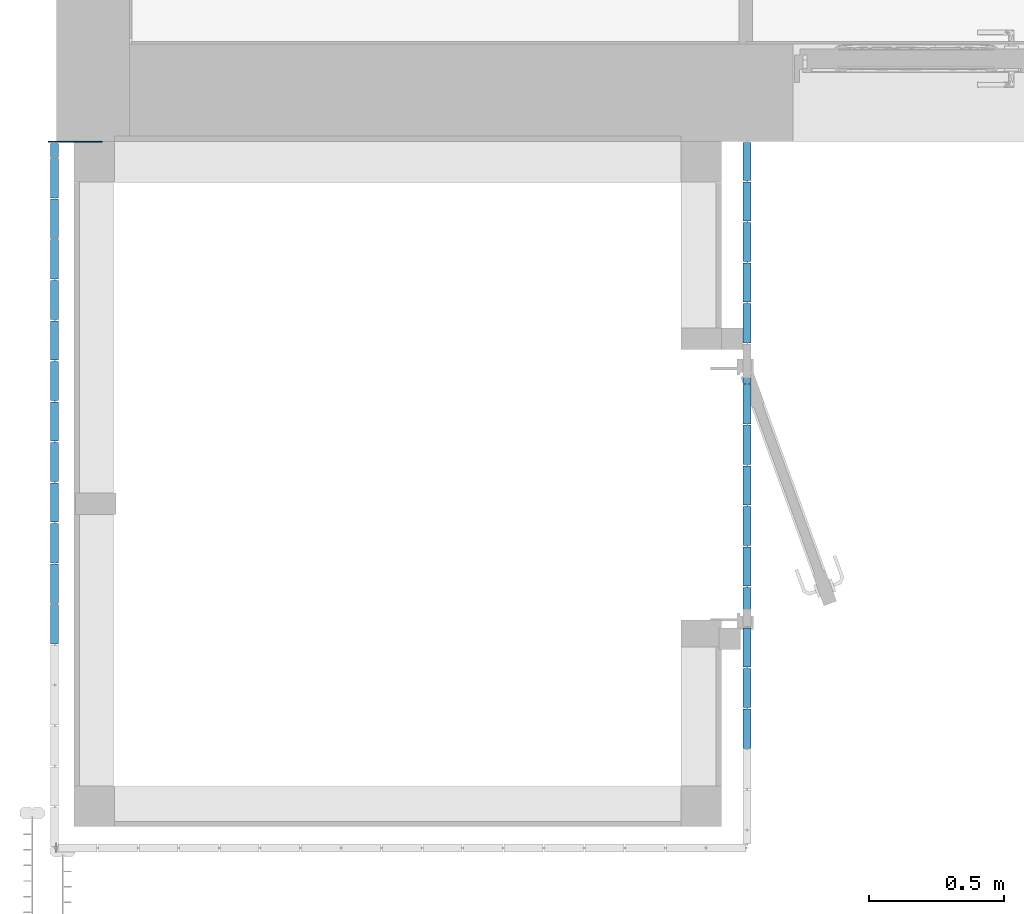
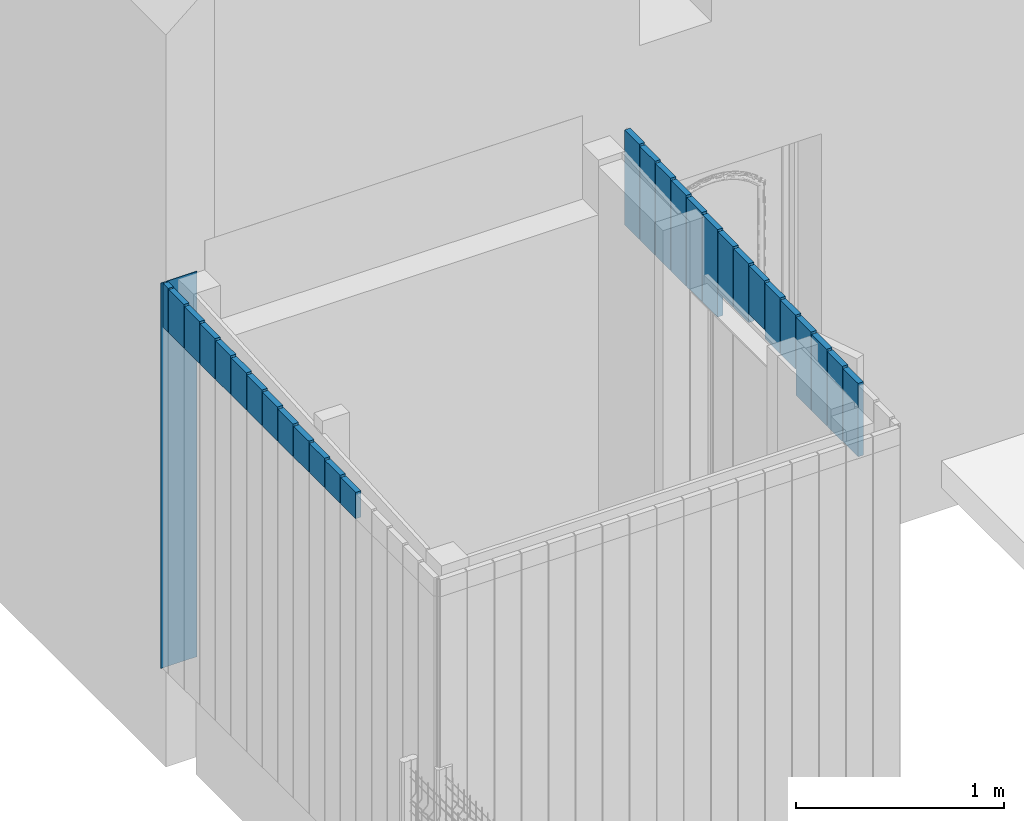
# One storey, part 72 of 81: 29 walls, 1 opening, 2 elements without a shape of their own.
"""IFC2X3 building model written with IfcOpenShell, lengths in metres."""

import ifcopenshell
import ifcopenshell.guid

model = None  # the IFC model being written
_history = None  # IfcOwnerHistory: only IFC2X3 demands one
_inside = {}  # id of a spatial element -> (the spatial element, [elements in it])
_under = {}  # id of a project, library or spatial element -> (it, [spatial elements below it])
_declared = {}  # id of a project -> (the project, [libraries it declares])
_typed = {}  # id of a type object -> (the type object, [elements of that type])
_made_of = {}  # id of a material, layer set ... -> (it, [elements and type objects made of it])


def new_model(schema):
    """Start an empty IFC model of exactly this schema.

    Asked for "IFC4X3", IfcOpenShell would pick the latest addendum, in which some entities
    have other attributes; the version numbers below select the first issue.
    IFC2X3 requires an IfcOwnerHistory on every rooted entity: one is made here for all.
    """
    global model, _history
    if schema == "IFC4X3":
        model = ifcopenshell.file(schema_version=(4, 3, 0, 0))
    else:
        model = ifcopenshell.file(schema=schema)
    _inside.clear()
    _under.clear()
    _declared.clear()
    _typed.clear()
    _made_of.clear()
    _history = None
    if model.schema == "IFC2X3":
        org = make("IfcOrganization", Name="unknown")
        user = make(
            "IfcPersonAndOrganization",
            ThePerson=make("IfcPerson", FamilyName="unknown"),
            TheOrganization=org,
        )
        app = make(
            "IfcApplication",
            ApplicationDeveloper=org,
            Version="unknown",
            ApplicationFullName="unknown",
            ApplicationIdentifier="unknown",
        )
        _history = make(
            "IfcOwnerHistory",
            OwningUser=user,
            OwningApplication=app,
            ChangeAction="ADDED",
            CreationDate=0,
        )
    return model


def make(cls, **values):
    """One entity of the class cls with the attributes given. An attribute that is None is left unset."""
    return model.create_entity(
        cls, **{name: value for name, value in values.items() if value is not None}
    )


def entity(cls, *values):
    """Any entity or typed value of the class cls, its attributes in the order of the schema. None: left unset."""
    e = model.create_entity(cls)
    for i, value in enumerate(values):
        if value is not None:
            e[i] = value
    return e


def rooted(cls, **values):
    """An entity with a GlobalId (a new one), such as an element, a storey or a relation."""
    return make(cls, GlobalId=ifcopenshell.guid.new(), OwnerHistory=_history, **values)


def si_unit(unit_type, name, prefix=None):
    """IfcSIUnit, for example si_unit("LENGTHUNIT", "METRE", prefix="MILLI")."""
    return make("IfcSIUnit", UnitType=unit_type, Prefix=prefix, Name=name)


def converted_unit(unit_type, name, factor, base, dimensions=None, offset=None):
    """IfcConversionBasedUnit, such as the inch: factor (a typed value) times the base unit."""
    return make(
        "IfcConversionBasedUnit"
        if offset is None
        else "IfcConversionBasedUnitWithOffset",
        ConversionOffset=offset,
        Dimensions=None
        if dimensions is None
        else entity("IfcDimensionalExponents", *dimensions),
        UnitType=unit_type,
        Name=name,
        ConversionFactor=make(
            "IfcMeasureWithUnit", ValueComponent=factor, UnitComponent=base
        ),
    )


def derived_unit(unit_type, elements):
    """IfcDerivedUnit: a product of units, each with its exponent."""
    return make(
        "IfcDerivedUnit",
        Elements=[
            make("IfcDerivedUnitElement", Unit=unit, Exponent=power)
            for unit, power in elements
        ],
        UnitType=unit_type,
    )


def assignment(units):
    """IfcUnitAssignment: the units of a project."""
    return None if units is None else make("IfcUnitAssignment", Units=units)


def point(xyz):
    """IfcCartesianPoint."""
    return None if xyz is None else make("IfcCartesianPoint", Coordinates=xyz)


def direction(xyz):
    """IfcDirection."""
    return None if xyz is None else make("IfcDirection", DirectionRatios=xyz)


def frame(location, z_axis=None, x_axis=None):
    """IfcAxis2Placement3D, a coordinate frame: its origin and axes. An axis left out is left unset."""
    return make(
        "IfcAxis2Placement3D",
        Location=point(location),
        Axis=direction(z_axis),
        RefDirection=direction(x_axis),
    )


def frame_2d(location, x_axis=None):
    """IfcAxis2Placement2D, a coordinate frame in the plane: its origin and x axis."""
    return make(
        "IfcAxis2Placement2D", Location=point(location), RefDirection=direction(x_axis)
    )


def origin():
    """The frame at (0, 0, 0) with its axes left unset."""
    return frame((0.0, 0.0, 0.0))


def place(relative_to, where):
    """IfcLocalPlacement: puts the frame where relative to a parent placement (None: the world)."""
    return make(
        "IfcLocalPlacement", PlacementRelTo=relative_to, RelativePlacement=where
    )


def context(
    kind, dimensions, precision=None, world=None, true_north=None, identifier=None
):
    """IfcGeometricRepresentationContext, for example the 3D "Model" context."""
    return make(
        "IfcGeometricRepresentationContext",
        ContextIdentifier=identifier,
        ContextType=kind,
        CoordinateSpaceDimension=dimensions,
        Precision=precision,
        WorldCoordinateSystem=world,
        TrueNorth=true_north,
    )


def subcontext(parent, identifier, kind, view, scale=None):
    """IfcGeometricRepresentationSubContext, for example "Body" below "Model"."""
    return make(
        "IfcGeometricRepresentationSubContext",
        ContextIdentifier=identifier,
        ContextType=kind,
        ParentContext=parent,
        TargetScale=scale,
        TargetView=view,
    )


def project(units=None, contexts=None):
    """IfcProject with its units and contexts."""
    return rooted(
        "IfcProject",
        Name="project",
        RepresentationContexts=contexts,
        UnitsInContext=assignment(units),
    )


def spatial(cls, under=None, at=None, **own):
    """A site, building, storey or space (cls), placed at a placement, below another one or the project."""
    s = rooted(cls, ObjectPlacement=at, **own)
    if under is not None:
        _under.setdefault(under.id(), (under, []))[1].append(s)
    return s


def profile(cls, at=None, kind="AREA", **sizes):
    """A parametric profile (cls). Its sizes go by their IFC names, for example OverallWidth=200.0."""
    return make(cls, ProfileType=kind, Position=at, **sizes)


def rectangle(**sizes):
    """IfcRectangleProfileDef."""
    return profile("IfcRectangleProfileDef", **sizes)


def extrude(swept, where, along, depth):
    """IfcExtrudedAreaSolid: the profile swept, set in the frame where, extruded along a direction by depth."""
    return make(
        "IfcExtrudedAreaSolid",
        SweptArea=swept,
        Position=where,
        ExtrudedDirection=direction(along),
        Depth=depth,
    )


def faces_of(points, faces, orient=None, outer=None):
    """IfcFace entities. A face is a list of loops; a loop is a list of indices into points, from 0.

    orient and outer hold one flag for each loop. By default every Orientation is true, the
    first loop of a face is its IfcFaceOuterBound and the others are IfcFaceBound.
    """
    made = []
    for i, loops in enumerate(faces):
        bounds = []
        for j, loop in enumerate(loops):
            is_outer = j == 0 if outer is None else outer[i][j]
            bounds.append(
                make(
                    "IfcFaceOuterBound" if is_outer else "IfcFaceBound",
                    Bound=make("IfcPolyLoop", Polygon=[points[k] for k in loop]),
                    Orientation=True if orient is None else orient[i][j],
                )
            )
        made.append(make("IfcFace", Bounds=bounds))
    return made


def faceted_brep(points, faces, orient=None, outer=None, voids=None):
    """IfcFacetedBrep: a solid bounded by flat faces; with voids (closed shells), ...WithVoids."""
    shared = [point(p) for p in points]
    hull = make("IfcClosedShell", CfsFaces=faces_of(shared, faces, orient, outer))
    if voids is None:
        return make("IfcFacetedBrep", Outer=hull)
    return make(
        "IfcFacetedBrepWithVoids",
        Outer=hull,
        Voids=[
            make(cls, CfsFaces=faces_of(shared, fs, o, b)) for cls, fs, o, b in voids
        ],
    )


def shape(context_of_items, identifier, shape_type, items):
    """IfcShapeRepresentation: the items that make up one representation, for example the "Body"."""
    return make(
        "IfcShapeRepresentation",
        ContextOfItems=context_of_items,
        RepresentationIdentifier=identifier,
        RepresentationType=shape_type,
        Items=items,
    )


def material(Name=None, Category=None):
    """IfcMaterial."""
    return make("IfcMaterial", Name=Name, Category=Category)


def layer(
    of_material, thickness, ventilated=None, Name=None, Category=None, Priority=None
):
    """IfcMaterialLayer: one layer of a wall or slab, of a material (None: an air gap)."""
    return make(
        "IfcMaterialLayer",
        Material=of_material,
        LayerThickness=thickness,
        IsVentilated=ventilated,
        Name=Name,
        Category=Category,
        Priority=Priority,
    )


def layer_set(layers, Name=None):
    """IfcMaterialLayerSet."""
    return make("IfcMaterialLayerSet", MaterialLayers=layers, LayerSetName=Name)


def layer_usage(for_layer_set, set_direction, sense, offset, extent=None):
    """IfcMaterialLayerSetUsage: how a layer set lies in its element."""
    return make(
        "IfcMaterialLayerSetUsage",
        ForLayerSet=for_layer_set,
        LayerSetDirection=set_direction,
        DirectionSense=sense,
        OffsetFromReferenceLine=offset,
        ReferenceExtent=extent,
    )


def made_of(thing, what):
    """Note that an element or type object is made of a material, layer set ...; save() writes the relation."""
    if what is not None:
        _made_of.setdefault(what.id(), (what, []))[1].append(thing)
    return thing


def type_object(cls, material=None, **own):
    """A type object (cls), such as IfcWallType, which elements share."""
    return made_of(rooted(cls, **own), material)


def element(
    cls,
    number,
    at=None,
    inside=None,
    cuts=None,
    type_object=None,
    material=None,
    context=None,
    identifier="Body",
    shape_type=None,
    held_by="IfcProductDefinitionShape",
    body=None,
    shapes=None,
    **own,
):
    """One element of the class cls, such as IfcWall. Its Tag is "e" and its number.

    at: its placement. inside: the storey or other place that contains it. cuts: it is an
    opening in that element (IfcRelVoidsElement). A single representation is given by context,
    identifier, shape_type and body (its items); several are given by shapes. held_by: the class
    of the entity that holds the representations. save() writes the other relations.
    """
    e = rooted(cls, Tag="e%d" % number, ObjectPlacement=at, **own)
    if body is not None:
        shapes = [shape(context, identifier, shape_type, body)]
    if shapes is not None:
        e.Representation = make(held_by, Representations=shapes)
    if inside is not None:
        _inside.setdefault(inside.id(), (inside, []))[1].append(e)
    if cuts is not None:
        rooted(
            "IfcRelVoidsElement", RelatingBuildingElement=cuts, RelatedOpeningElement=e
        )
    if type_object is not None:
        _typed.setdefault(type_object.id(), (type_object, []))[1].append(e)
    return made_of(e, material)


def aggregate(whole, parts):
    """IfcRelAggregates: a whole, such as a stair, and the parts it consists of."""
    return rooted("IfcRelAggregates", RelatingObject=whole, RelatedObjects=parts)


def save(model, path):
    """Write the relations noted so far, then the file.

    IfcRelAggregates (storeys below a building ...), IfcRelContainedInSpatialStructure (elements
    in a storey), IfcRelDefinesByType, IfcRelAssociatesMaterial and IfcRelDeclares: one each for
    every whole, place, type object, material and project.
    """
    for whole, parts in _under.values():
        aggregate(whole, parts)
    for where, things in _inside.values():
        rooted(
            "IfcRelContainedInSpatialStructure",
            RelatedElements=things,
            RelatingStructure=where,
        )
    for kind, things in _typed.values():
        rooted("IfcRelDefinesByType", RelatedObjects=things, RelatingType=kind)
    for what, things in _made_of.values():
        rooted("IfcRelAssociatesMaterial", RelatedObjects=things, RelatingMaterial=what)
    for by, libraries in _declared.values():
        rooted("IfcRelDeclares", RelatingContext=by, RelatedDefinitions=libraries)
    model.write(path)


model = new_model("IFC2X3")

# Units and contexts
model_context = context("Model", 3, precision=1e-05, world=origin(), true_north=direction((6.12303176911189e-17, 1.0)))
body_context = subcontext(model_context, "Body", "Model", "MODEL_VIEW")
ifc_project = project(units=[si_unit("LENGTHUNIT", "METRE"), si_unit("AREAUNIT", "SQUARE_METRE"), si_unit("VOLUMEUNIT", "CUBIC_METRE"), converted_unit("PLANEANGLEUNIT", "DEGREE", entity("IfcRatioMeasure", 0.0174532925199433), si_unit("PLANEANGLEUNIT", "RADIAN"), dimensions=[0, 0, 0, 0, 0, 0, 0]), si_unit("MASSUNIT", "GRAM", prefix="KILO"), derived_unit("MASSDENSITYUNIT", [(si_unit("MASSUNIT", "GRAM", prefix="KILO"), 1), (si_unit("LENGTHUNIT", "METRE"), -3)]), derived_unit("MOMENTOFINERTIAUNIT", [(si_unit("LENGTHUNIT", "METRE"), 4)]), si_unit("TIMEUNIT", "SECOND"), si_unit("FREQUENCYUNIT", "HERTZ"), si_unit("THERMODYNAMICTEMPERATUREUNIT", "DEGREE_CELSIUS"), derived_unit("THERMALTRANSMITTANCEUNIT", [(si_unit("MASSUNIT", "GRAM", prefix="KILO"), 1), (si_unit("THERMODYNAMICTEMPERATUREUNIT", "KELVIN"), -1), (si_unit("TIMEUNIT", "SECOND"), -3)]), derived_unit("VOLUMETRICFLOWRATEUNIT", [(si_unit("LENGTHUNIT", "METRE"), 3), (si_unit("TIMEUNIT", "SECOND"), -1)]), si_unit("ELECTRICCURRENTUNIT", "AMPERE"), si_unit("ELECTRICVOLTAGEUNIT", "VOLT"), si_unit("POWERUNIT", "WATT"), si_unit("FORCEUNIT", "NEWTON", prefix="KILO"), si_unit("ILLUMINANCEUNIT", "LUX"), si_unit("LUMINOUSFLUXUNIT", "LUMEN"), si_unit("LUMINOUSINTENSITYUNIT", "CANDELA"), derived_unit("USERDEFINED", [(si_unit("MASSUNIT", "GRAM", prefix="KILO"), -1), (si_unit("LENGTHUNIT", "METRE"), -2), (si_unit("TIMEUNIT", "SECOND"), 3), (si_unit("LUMINOUSFLUXUNIT", "LUMEN"), 1)]), derived_unit("LINEARVELOCITYUNIT", [(si_unit("LENGTHUNIT", "METRE"), 1), (si_unit("TIMEUNIT", "SECOND"), -1)]), si_unit("PRESSUREUNIT", "PASCAL"), derived_unit("USERDEFINED", [(si_unit("LENGTHUNIT", "METRE"), -2), (si_unit("MASSUNIT", "GRAM", prefix="KILO"), 1), (si_unit("TIMEUNIT", "SECOND"), -2)]), derived_unit("LINEARFORCEUNIT", [(si_unit("MASSUNIT", "GRAM", prefix="KILO"), 1), (si_unit("LENGTHUNIT", "METRE"), 1), (si_unit("TIMEUNIT", "SECOND"), -2), (si_unit("LENGTHUNIT", "METRE"), -1)]), derived_unit("PLANARFORCEUNIT", [(si_unit("MASSUNIT", "GRAM", prefix="KILO"), 1), (si_unit("LENGTHUNIT", "METRE"), 1), (si_unit("TIMEUNIT", "SECOND"), -2), (si_unit("LENGTHUNIT", "METRE"), -2)])], contexts=[model_context])

# Site, building, storey
site_placement = place(None, origin())
site = spatial("IfcSite", under=ifc_project, at=site_placement, Name="Surface", CompositionType="ELEMENT")
building_placement = place(site_placement, origin())
building = spatial("IfcBuilding", under=site, at=building_placement, CompositionType="ELEMENT")
storey_placement = place(building_placement, origin())
storey = spatial("IfcBuildingStorey", under=building, at=storey_placement, Name="01 RDC", CompositionType="ELEMENT", Elevation=-1.94916083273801e-14)

# Curtain wall, walls, opening
curtain_wall_type = type_object("IfcCurtainWallType", Name="Mur-rideau:1m x 2m", PredefinedType="NOTDEFINED")
curtain_wall_1_placement = place(storey_placement, origin())
curtain_wall_1 = element("IfcCurtainWall", 1, at=curtain_wall_1_placement, inside=storey, type_object=curtain_wall_type, Name="Mur-rideau:1m x 2m", ObjectType="Mur-rideau:1m x 2m")
ifc_material_1 = material(Name="Résineux, bois de construction")
ifc_layer_1 = layer(ifc_material_1, 0.03)
ifc_layer_set_1 = layer_set([ifc_layer_1], Name="Mur-rideau:1m x 2m")
ifc_layer_usage_1 = layer_usage(ifc_layer_set_1, "AXIS2", "NEGATIVE", 0.015)
wall_type_1 = type_object("IfcWallType", Name="Mur de base:Panneau Triply 30 mm", PredefinedType="NOTDEFINED", material=ifc_layer_set_1)
wall_1_placement = place(storey_placement, frame((8.02156158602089, -3.70096095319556, 2.0), z_axis=(0.0, 0.0, 1.0), x_axis=(0.0, -1.0, 0.0)))
wall_1 = element("IfcWallStandardCase", 2, at=wall_1_placement, type_object=wall_type_1, material=ifc_layer_usage_1, Name="Mur de base:Panneau Triply 30 mm", ObjectType="Mur de base:Panneau Triply 30 mm", context=body_context, shape_type="SweptSolid", body=[
    extrude(rectangle(XDim=0.1400000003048, YDim=0.0299999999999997, at=frame_2d((0.0700000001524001, 1.13624387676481e-16), x_axis=(-1.0, 0.0))), origin(), (0.0, 0.0, 1.0), 0.558171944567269),
])
ifc_layer_usage_2 = layer_usage(ifc_layer_set_1, "AXIS2", "NEGATIVE", 0.015)
wall_2_placement = place(storey_placement, frame((8.02156158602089, -3.84595163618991, 2.0), z_axis=(0.0, 0.0, 1.0), x_axis=(0.0, -1.0, 0.0)))
wall_2 = element("IfcWallStandardCase", 3, at=wall_2_placement, type_object=wall_type_1, material=ifc_layer_usage_2, Name="Mur de base:Panneau Triply 30 mm", ObjectType="Mur de base:Panneau Triply 30 mm", context=body_context, shape_type="SweptSolid", body=[
    extrude(rectangle(XDim=0.145018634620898, YDim=0.0299999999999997, at=frame_2d((0.0725093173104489, 1.17961196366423e-16), x_axis=(-1.0, 0.0))), origin(), (0.0, 0.0, 1.0), 0.549456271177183),
])
ifc_layer_usage_3 = layer_usage(ifc_layer_set_1, "AXIS2", "NEGATIVE", 0.015)
wall_3_placement = place(storey_placement, frame((8.02156158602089, -3.99595163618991, 2.0), z_axis=(0.0, 0.0, 1.0), x_axis=(0.0, -1.0, 0.0)))
wall_3 = element("IfcWallStandardCase", 4, at=wall_3_placement, type_object=wall_type_1, material=ifc_layer_usage_3, Name="Mur de base:Panneau Triply 30 mm", ObjectType="Mur de base:Panneau Triply 30 mm", context=body_context, shape_type="SweptSolid", body=[
    extrude(rectangle(XDim=0.145018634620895, YDim=0.0299999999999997, at=frame_2d((0.0725093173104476, -4.24139889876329e-16), x_axis=(-1.0, 0.0))), origin(), (0.0, 0.0, 1.0), 0.540281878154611),
])
ifc_layer_usage_4 = layer_usage(ifc_layer_set_1, "AXIS2", "NEGATIVE", 0.015)
wall_4_placement = place(storey_placement, frame((8.02156158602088, -4.14595163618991, 2.0), z_axis=(0.0, 0.0, 1.0), x_axis=(0.0, -1.0, 0.0)))
wall_4 = element("IfcWallStandardCase", 5, at=wall_4_placement, type_object=wall_type_1, material=ifc_layer_usage_4, Name="Mur de base:Panneau Triply 30 mm", ObjectType="Mur de base:Panneau Triply 30 mm", context=body_context, shape_type="SweptSolid", body=[
    extrude(rectangle(XDim=0.145018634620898, YDim=0.0299999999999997, at=frame_2d((0.0725093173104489, 1.17961196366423e-16), x_axis=(-1.0, 0.0))), origin(), (0.0, 0.0, 1.0), 0.531107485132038),
])
ifc_layer_usage_5 = layer_usage(ifc_layer_set_1, "AXIS2", "NEGATIVE", 0.015)
wall_5_placement = place(storey_placement, frame((8.02156158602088, -4.29595163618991, 2.0), z_axis=(0.0, 0.0, 1.0), x_axis=(0.0, -1.0, 0.0)))
wall_5 = element("IfcWallStandardCase", 6, at=wall_5_placement, type_object=wall_type_1, material=ifc_layer_usage_5, Name="Mur de base:Panneau Triply 30 mm", ObjectType="Mur de base:Panneau Triply 30 mm", context=body_context, shape_type="SweptSolid", body=[
    extrude(rectangle(XDim=0.145018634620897, YDim=0.0299999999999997, at=frame_2d((0.0725093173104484, 1.17961196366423e-16), x_axis=(-1.0, 0.0))), origin(), (0.0, 0.0, 1.0), 0.521933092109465),
])
ifc_layer_usage_6 = layer_usage(ifc_layer_set_1, "AXIS2", "NEGATIVE", 0.015)
wall_6_placement = place(storey_placement, frame((8.02156158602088, -4.44595163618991, 2.0), z_axis=(0.0, 0.0, 1.0), x_axis=(0.0, -1.0, 0.0)))
wall_6 = element("IfcWallStandardCase", 7, at=wall_6_placement, type_object=wall_type_1, material=ifc_layer_usage_6, Name="Mur de base:Panneau Triply 30 mm", ObjectType="Mur de base:Panneau Triply 30 mm", context=body_context, shape_type="SweptSolid", body=[
    extrude(rectangle(XDim=0.145009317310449, YDim=0.0299999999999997, at=frame_2d((0.0725046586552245, 1.17961196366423e-16), x_axis=(-1.0, 0.0))), origin(), (0.0, 0.0, 1.0), 0.512758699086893),
])
ifc_layer_usage_7 = layer_usage(ifc_layer_set_1, "AXIS2", "NEGATIVE", 0.015)
wall_7_placement = place(storey_placement, frame((8.02156158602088, -4.59595163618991, 2.15), z_axis=(0.0, 0.0, 1.0), x_axis=(0.0, -1.0, 0.0)))
wall_7 = element("IfcWallStandardCase", 8, at=wall_7_placement, type_object=wall_type_1, material=ifc_layer_usage_7, Name="Mur de base:Panneau Triply 30 mm", ObjectType="Mur de base:Panneau Triply 30 mm", context=body_context, shape_type="SweptSolid", body=[
    extrude(rectangle(XDim=0.145018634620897, YDim=0.0299999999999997, at=frame_2d((0.0725093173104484, 1.17961196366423e-16), x_axis=(-1.0, 0.0))), origin(), (0.0, 0.0, 1.0), 0.353584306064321),
])
ifc_layer_usage_8 = layer_usage(ifc_layer_set_1, "AXIS2", "NEGATIVE", 0.015)
wall_8_placement = place(storey_placement, frame((8.02156158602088, -4.74595163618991, 2.15), z_axis=(0.0, 0.0, 1.0), x_axis=(0.0, -1.0, 0.0)))
wall_8 = element("IfcWallStandardCase", 9, at=wall_8_placement, type_object=wall_type_1, material=ifc_layer_usage_8, Name="Mur de base:Panneau Triply 30 mm", ObjectType="Mur de base:Panneau Triply 30 mm", context=body_context, shape_type="SweptSolid", body=[
    extrude(rectangle(XDim=0.145018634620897, YDim=0.0299999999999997, at=frame_2d((0.0725093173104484, -4.24139889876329e-16), x_axis=(-1.0, 0.0))), origin(), (0.0, 0.0, 1.0), 0.344409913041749),
])
ifc_layer_usage_9 = layer_usage(ifc_layer_set_1, "AXIS2", "NEGATIVE", 0.015)
wall_9_placement = place(storey_placement, frame((8.02156158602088, -4.89595163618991, 2.20000000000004), z_axis=(0.0, 0.0, 1.0), x_axis=(0.0, -1.0, 0.0)))
wall_9 = element("IfcWallStandardCase", 10, at=wall_9_placement, type_object=wall_type_1, material=ifc_layer_usage_9, Name="Mur de base:Panneau Triply 30 mm", ObjectType="Mur de base:Panneau Triply 30 mm", context=body_context, shape_type="SweptSolid", body=[
    extrude(rectangle(XDim=0.145018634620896, YDim=0.0299999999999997, at=frame_2d((0.0725093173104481, 1.17961196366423e-16), x_axis=(-1.0, 0.0))), origin(), (0.0, 0.0, 1.0), 0.285235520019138),
])
opening_placement = place(wall_9_placement, frame((0.605009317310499, -0.315000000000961, -2.20000000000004), z_axis=(0.0, 0.0, 1.0), x_axis=(0.0, 1.0, 0.0)))
element("IfcOpeningElement", 11, at=opening_placement, cuts=wall_9, Name="Mur de base:Panneau Triply 30 mm", ObjectType="Opening", context=body_context, shape_type="Brep", body=[
    faceted_brep([(0.630000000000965, 0.960000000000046, 2.15999999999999), (0.338000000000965, 0.960000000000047, 2.15999999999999), (0.338000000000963, 0.0400000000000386, 2.15999999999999), (0.630000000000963, 0.0400000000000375, 2.15999999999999), (0.0, 0.960000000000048, 0.0), (0.180000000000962, 0.960000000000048, 0.0), (0.180000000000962, 0.970000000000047, 0.0), (0.27800000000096, 0.970000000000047, 0.0), (0.27800000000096, 1.0, 0.0), (0.338000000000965, 1.0, 0.0), (0.338000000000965, 0.960000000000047, 0.0), (0.630000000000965, 0.960000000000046, 0.0), (0.630000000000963, 0.0400000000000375, 0.0), (0.338000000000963, 0.0400000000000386, 0.0), (0.338000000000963, 0.0, 0.0), (0.278000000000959, 0.0, 0.0), (0.278000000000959, 0.0300000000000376, 0.0), (0.180000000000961, 0.0300000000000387, 0.0), (0.180000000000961, 0.0400000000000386, 0.0), (0.0, 0.0400000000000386, 0.0), (0.0, 0.960000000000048, 2.15999999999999), (0.180000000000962, 0.960000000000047, 2.15999999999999), (0.0, 0.0400000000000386, 2.15999999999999), (0.278000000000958, 0.0, 2.20000000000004), (0.278000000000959, 1.0, 2.20000000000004), (0.278000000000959, 0.970000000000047, 2.17), (0.278000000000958, 0.0300000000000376, 2.17), (0.18000000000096, 0.0300000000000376, 2.17), (0.180000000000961, 0.970000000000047, 2.17), (0.18000000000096, 0.0400000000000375, 2.15999999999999), (0.338000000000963, 1.0, 2.20000000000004), (0.338000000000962, 0.0, 2.20000000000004)], [[[0, 1, 2, 3]], [[4, 5, 6, 7, 8, 9, 10, 11, 12, 13, 14, 15, 16, 17, 18, 19]], [[20, 21, 5, 4]], [[20, 4, 19, 22]], [[3, 2, 13, 12]], [[3, 12, 11, 0]], [[15, 23, 24, 8, 7, 25, 26, 16]], [[16, 26, 27, 17]], [[17, 27, 28, 6, 5, 21, 29, 18]], [[13, 2, 1, 10, 9, 30, 31, 14]], [[14, 31, 23, 15]], [[25, 28, 27, 26]], [[23, 31, 30, 24]], [[7, 6, 28, 25]], [[24, 30, 9, 8]], [[19, 18, 29, 22]], [[11, 10, 1, 0]], [[22, 29, 21, 20]]]),
])
ifc_layer_usage_10 = layer_usage(ifc_layer_set_1, "AXIS2", "NEGATIVE", 0.015)
wall_10_placement = place(storey_placement, frame((8.02156158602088, -5.04595163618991, 2.15), z_axis=(0.0, 0.0, 1.0), x_axis=(0.0, -1.0, 0.0)))
wall_10 = element("IfcWallStandardCase", 12, at=wall_10_placement, type_object=wall_type_1, material=ifc_layer_usage_10, Name="Mur de base:Panneau Triply 30 mm", ObjectType="Mur de base:Panneau Triply 30 mm", context=body_context, shape_type="SweptSolid", body=[
    extrude(rectangle(XDim=0.145018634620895, YDim=0.0299999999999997, at=frame_2d((0.0725093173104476, 1.17961196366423e-16), x_axis=(-1.0, 0.0))), origin(), (0.0, 0.0, 1.0), 0.326061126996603),
])
ifc_layer_usage_11 = layer_usage(ifc_layer_set_1, "AXIS2", "NEGATIVE", 0.015)
wall_11_placement = place(storey_placement, frame((8.02156158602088, -5.19595163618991, 2.15), z_axis=(0.0, 0.0, 1.0), x_axis=(0.0, -1.0, 0.0)))
wall_11 = element("IfcWallStandardCase", 13, at=wall_11_placement, type_object=wall_type_1, material=ifc_layer_usage_11, Name="Mur de base:Panneau Triply 30 mm", ObjectType="Mur de base:Panneau Triply 30 mm", context=body_context, shape_type="SweptSolid", body=[
    extrude(rectangle(XDim=0.145018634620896, YDim=0.0299999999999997, at=frame_2d((0.0725093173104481, 1.17961196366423e-16), x_axis=(-1.0, 0.0))), origin(), (0.0, 0.0, 1.0), 0.316886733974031),
])
ifc_layer_usage_12 = layer_usage(ifc_layer_set_1, "AXIS2", "NEGATIVE", 0.015)
wall_12_placement = place(storey_placement, frame((8.02156158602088, -5.34595163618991, 2.0), z_axis=(0.0, 0.0, 1.0), x_axis=(0.0, -1.0, 0.0)))
wall_12 = element("IfcWallStandardCase", 14, at=wall_12_placement, type_object=wall_type_1, material=ifc_layer_usage_12, Name="Mur de base:Panneau Triply 30 mm", ObjectType="Mur de base:Panneau Triply 30 mm", context=body_context, shape_type="SweptSolid", body=[
    extrude(rectangle(XDim=0.145009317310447, YDim=0.0299999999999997, at=frame_2d((0.0725046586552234, -4.24139889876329e-16), x_axis=(-1.0, 0.0))), origin(), (0.0, 0.0, 1.0), 0.457712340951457),
])
ifc_layer_usage_13 = layer_usage(ifc_layer_set_1, "AXIS2", "NEGATIVE", 0.015)
wall_13_placement = place(storey_placement, frame((8.02156158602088, -5.49595163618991, 2.0), z_axis=(0.0, 0.0, 1.0), x_axis=(0.0, -1.0, 0.0)))
wall_13 = element("IfcWallStandardCase", 15, at=wall_13_placement, type_object=wall_type_1, material=ifc_layer_usage_13, Name="Mur de base:Panneau Triply 30 mm", ObjectType="Mur de base:Panneau Triply 30 mm", context=body_context, shape_type="SweptSolid", body=[
    extrude(rectangle(XDim=0.145018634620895, YDim=0.0299999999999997, at=frame_2d((0.0725093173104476, 1.17961196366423e-16), x_axis=(-1.0, 0.0))), origin(), (0.0, 0.0, 1.0), 0.448537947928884),
])
ifc_layer_usage_14 = layer_usage(ifc_layer_set_1, "AXIS2", "NEGATIVE", 0.015)
wall_14_placement = place(storey_placement, frame((8.02156158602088, -5.64595163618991, 2.0), z_axis=(0.0, 0.0, 1.0), x_axis=(0.0, -1.0, 0.0)))
wall_14 = element("IfcWallStandardCase", 16, at=wall_14_placement, type_object=wall_type_1, material=ifc_layer_usage_14, Name="Mur de base:Panneau Triply 30 mm", ObjectType="Mur de base:Panneau Triply 30 mm", context=body_context, shape_type="SweptSolid", body=[
    extrude(rectangle(XDim=0.145018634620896, YDim=0.0299999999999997, at=frame_2d((0.0725093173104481, 1.17961196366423e-16), x_axis=(-1.0, 0.0))), origin(), (0.0, 0.0, 1.0), 0.439363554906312),
])
ifc_layer_usage_15 = layer_usage(ifc_layer_set_1, "AXIS2", "NEGATIVE", 0.015)
wall_15_placement = place(storey_placement, frame((8.02156158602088, -5.79595163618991, 2.0), z_axis=(0.0, 0.0, 1.0), x_axis=(0.0, -1.0, 0.0)))
wall_15 = element("IfcWallStandardCase", 17, at=wall_15_placement, type_object=wall_type_1, material=ifc_layer_usage_15, Name="Mur de base:Panneau Triply 30 mm", ObjectType="Mur de base:Panneau Triply 30 mm", context=body_context, shape_type="SweptSolid", body=[
    extrude(rectangle(XDim=0.145018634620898, YDim=0.0299999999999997, at=frame_2d((0.0725093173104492, 1.17961196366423e-16), x_axis=(-1.0, 0.0))), origin(), (0.0, 0.0, 1.0), 0.430189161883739),
])
aggregate(curtain_wall_1, [wall_1, wall_2, wall_3, wall_4, wall_5, wall_6, wall_7, wall_8, wall_9, wall_10, wall_11, wall_12, wall_13, wall_14, wall_15])

# Curtain wall, walls
curtain_wall_2_placement = place(storey_placement, origin())
curtain_wall_2 = element("IfcCurtainWall", 18, at=curtain_wall_2_placement, inside=storey, type_object=curtain_wall_type, Name="Mur-rideau:1m x 2m", ObjectType="Mur-rideau:1m x 2m")
ifc_layer_usage_16 = layer_usage(ifc_layer_set_1, "AXIS2", "POSITIVE", -0.015)
wall_16_placement = place(storey_placement, frame((5.45983615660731, -5.5547202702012, 2.3), z_axis=(0.0, 0.0, 1.0), x_axis=(0.0, 1.0, 0.0)))
wall_16 = element("IfcWallStandardCase", 19, at=wall_16_placement, type_object=wall_type_1, material=ifc_layer_usage_16, Name="Mur de base:Panneau Triply 30 mm", ObjectType="Mur de base:Panneau Triply 30 mm", context=body_context, shape_type="SweptSolid", body=[
    extrude(rectangle(XDim=0.145018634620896, YDim=0.0299999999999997, at=frame_2d((0.0725093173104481, 1.24032728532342e-16), x_axis=(-1.0, 0.0))), origin(), (0.0, 0.0, 1.0), 0.153813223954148),
])
ifc_layer_usage_17 = layer_usage(ifc_layer_set_1, "AXIS2", "POSITIVE", -0.015)
wall_17_placement = place(storey_placement, frame((5.45983615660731, -5.40472027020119, 2.3), z_axis=(0.0, 0.0, 1.0), x_axis=(0.0, 1.0, 0.0)))
wall_17 = element("IfcWallStandardCase", 20, at=wall_17_placement, type_object=wall_type_1, material=ifc_layer_usage_17, Name="Mur de base:Panneau Triply 30 mm", ObjectType="Mur de base:Panneau Triply 30 mm", context=body_context, shape_type="SweptSolid", body=[
    extrude(rectangle(XDim=0.145018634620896, YDim=0.0299999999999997, at=frame_2d((0.0725093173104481, -4.17200995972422e-16), x_axis=(-1.0, 0.0))), origin(), (0.0, 0.0, 1.0), 0.16298761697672),
])
ifc_layer_usage_18 = layer_usage(ifc_layer_set_1, "AXIS2", "POSITIVE", -0.015)
wall_18_placement = place(storey_placement, frame((5.45983615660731, -5.2547202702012, 2.3), z_axis=(0.0, 0.0, 1.0), x_axis=(0.0, 1.0, 0.0)))
wall_18 = element("IfcWallStandardCase", 21, at=wall_18_placement, type_object=wall_type_1, material=ifc_layer_usage_18, Name="Mur de base:Panneau Triply 30 mm", ObjectType="Mur de base:Panneau Triply 30 mm", context=body_context, shape_type="SweptSolid", body=[
    extrude(rectangle(XDim=0.145018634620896, YDim=0.0299999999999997, at=frame_2d((0.0725093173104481, 1.24032728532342e-16), x_axis=(-1.0, 0.0))), origin(), (0.0, 0.0, 1.0), 0.172162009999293),
])
ifc_layer_usage_19 = layer_usage(ifc_layer_set_1, "AXIS2", "POSITIVE", -0.015)
wall_19_placement = place(storey_placement, frame((5.45983615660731, -5.1047202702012, 2.3), z_axis=(0.0, 0.0, 1.0), x_axis=(0.0, 1.0, 0.0)))
wall_19 = element("IfcWallStandardCase", 22, at=wall_19_placement, type_object=wall_type_1, material=ifc_layer_usage_19, Name="Mur de base:Panneau Triply 30 mm", ObjectType="Mur de base:Panneau Triply 30 mm", context=body_context, shape_type="SweptSolid", body=[
    extrude(rectangle(XDim=0.145018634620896, YDim=0.0299999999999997, at=frame_2d((0.0725093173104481, 1.24032728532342e-16), x_axis=(-1.0, 0.0))), origin(), (0.0, 0.0, 1.0), 0.181336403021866),
])
ifc_layer_usage_20 = layer_usage(ifc_layer_set_1, "AXIS2", "POSITIVE", -0.015)
wall_20_placement = place(storey_placement, frame((5.45983615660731, -4.95472027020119, 2.3), z_axis=(0.0, 0.0, 1.0), x_axis=(0.0, 1.0, 0.0)))
wall_20 = element("IfcWallStandardCase", 23, at=wall_20_placement, type_object=wall_type_1, material=ifc_layer_usage_20, Name="Mur de base:Panneau Triply 30 mm", ObjectType="Mur de base:Panneau Triply 30 mm", context=body_context, shape_type="SweptSolid", body=[
    extrude(rectangle(XDim=0.145018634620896, YDim=0.0299999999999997, at=frame_2d((0.0725093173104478, 1.24032728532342e-16), x_axis=(-1.0, 0.0))), origin(), (0.0, 0.0, 1.0), 0.190510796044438),
])
ifc_layer_usage_21 = layer_usage(ifc_layer_set_1, "AXIS2", "POSITIVE", -0.015)
wall_21_placement = place(storey_placement, frame((5.45983615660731, -4.8047202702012, 2.3), z_axis=(0.0, 0.0, 1.0), x_axis=(0.0, 1.0, 0.0)))
wall_21 = element("IfcWallStandardCase", 24, at=wall_21_placement, type_object=wall_type_1, material=ifc_layer_usage_21, Name="Mur de base:Panneau Triply 30 mm", ObjectType="Mur de base:Panneau Triply 30 mm", context=body_context, shape_type="SweptSolid", body=[
    extrude(rectangle(XDim=0.145018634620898, YDim=0.0299999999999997, at=frame_2d((0.0725093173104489, -4.17200995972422e-16), x_axis=(-1.0, 0.0))), origin(), (0.0, 0.0, 1.0), 0.199685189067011),
])
ifc_layer_usage_22 = layer_usage(ifc_layer_set_1, "AXIS2", "POSITIVE", -0.015)
wall_22_placement = place(storey_placement, frame((5.45983615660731, -4.6547202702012, 2.3), z_axis=(0.0, 0.0, 1.0), x_axis=(0.0, 1.0, 0.0)))
wall_22 = element("IfcWallStandardCase", 25, at=wall_22_placement, type_object=wall_type_1, material=ifc_layer_usage_22, Name="Mur de base:Panneau Triply 30 mm", ObjectType="Mur de base:Panneau Triply 30 mm", context=body_context, shape_type="SweptSolid", body=[
    extrude(rectangle(XDim=0.145018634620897, YDim=0.0299999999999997, at=frame_2d((0.0725093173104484, 1.24032728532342e-16), x_axis=(-1.0, 0.0))), origin(), (0.0, 0.0, 1.0), 0.208859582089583),
])
ifc_layer_usage_23 = layer_usage(ifc_layer_set_1, "AXIS2", "POSITIVE", -0.015)
wall_23_placement = place(storey_placement, frame((5.45983615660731, -4.5047202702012, 2.3), z_axis=(0.0, 0.0, 1.0), x_axis=(0.0, 1.0, 0.0)))
wall_23 = element("IfcWallStandardCase", 26, at=wall_23_placement, type_object=wall_type_1, material=ifc_layer_usage_23, Name="Mur de base:Panneau Triply 30 mm", ObjectType="Mur de base:Panneau Triply 30 mm", context=body_context, shape_type="SweptSolid", body=[
    extrude(rectangle(XDim=0.145018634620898, YDim=0.0299999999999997, at=frame_2d((0.0725093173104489, 1.24032728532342e-16), x_axis=(-1.0, 0.0))), origin(), (0.0, 0.0, 1.0), 0.218033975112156),
])
ifc_layer_usage_24 = layer_usage(ifc_layer_set_1, "AXIS2", "POSITIVE", -0.015)
wall_24_placement = place(storey_placement, frame((5.45983615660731, -4.3547202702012, 2.3), z_axis=(0.0, 0.0, 1.0), x_axis=(0.0, 1.0, 0.0)))
wall_24 = element("IfcWallStandardCase", 27, at=wall_24_placement, type_object=wall_type_1, material=ifc_layer_usage_24, Name="Mur de base:Panneau Triply 30 mm", ObjectType="Mur de base:Panneau Triply 30 mm", context=body_context, shape_type="SweptSolid", body=[
    extrude(rectangle(XDim=0.145018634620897, YDim=0.0299999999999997, at=frame_2d((0.0725093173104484, 1.24032728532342e-16), x_axis=(-1.0, 0.0))), origin(), (0.0, 0.0, 1.0), 0.227208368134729),
])
ifc_layer_usage_25 = layer_usage(ifc_layer_set_1, "AXIS2", "POSITIVE", -0.015)
wall_25_placement = place(storey_placement, frame((5.45983615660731, -4.2047202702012, 2.3), z_axis=(0.0, 0.0, 1.0), x_axis=(0.0, 1.0, 0.0)))
wall_25 = element("IfcWallStandardCase", 28, at=wall_25_placement, type_object=wall_type_1, material=ifc_layer_usage_25, Name="Mur de base:Panneau Triply 30 mm", ObjectType="Mur de base:Panneau Triply 30 mm", context=body_context, shape_type="SweptSolid", body=[
    extrude(rectangle(XDim=0.145018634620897, YDim=0.0299999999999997, at=frame_2d((0.0725093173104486, 1.24032728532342e-16), x_axis=(-1.0, 0.0))), origin(), (0.0, 0.0, 1.0), 0.236382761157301),
])
ifc_layer_usage_26 = layer_usage(ifc_layer_set_1, "AXIS2", "POSITIVE", -0.015)
wall_26_placement = place(storey_placement, frame((5.45983615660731, -4.0547202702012, 2.3), z_axis=(0.0, 0.0, 1.0), x_axis=(0.0, 1.0, 0.0)))
wall_26 = element("IfcWallStandardCase", 29, at=wall_26_placement, type_object=wall_type_1, material=ifc_layer_usage_26, Name="Mur de base:Panneau Triply 30 mm", ObjectType="Mur de base:Panneau Triply 30 mm", context=body_context, shape_type="SweptSolid", body=[
    extrude(rectangle(XDim=0.145018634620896, YDim=0.0299999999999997, at=frame_2d((0.0725093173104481, -4.17200995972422e-16), x_axis=(-1.0, 0.0))), origin(), (0.0, 0.0, 1.0), 0.245557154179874),
])
ifc_layer_usage_27 = layer_usage(ifc_layer_set_1, "AXIS2", "POSITIVE", -0.015)
wall_27_placement = place(storey_placement, frame((5.45983615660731, -3.9047202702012, 2.3), z_axis=(0.0, 0.0, 1.0), x_axis=(0.0, 1.0, 0.0)))
wall_27 = element("IfcWallStandardCase", 30, at=wall_27_placement, type_object=wall_type_1, material=ifc_layer_usage_27, Name="Mur de base:Panneau Triply 30 mm", ObjectType="Mur de base:Panneau Triply 30 mm", context=body_context, shape_type="SweptSolid", body=[
    extrude(rectangle(XDim=0.145018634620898, YDim=0.0299999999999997, at=frame_2d((0.0725093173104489, 1.24032728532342e-16), x_axis=(-1.0, 0.0))), origin(), (0.0, 0.0, 1.0), 0.254731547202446),
])
ifc_layer_usage_28 = layer_usage(ifc_layer_set_1, "AXIS2", "POSITIVE", -0.015)
wall_28_placement = place(storey_placement, frame((5.45983615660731, -3.75471095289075, 2.3), z_axis=(0.0, 0.0, 1.0), x_axis=(0.0, 1.0, 0.0)))
wall_28 = element("IfcWallStandardCase", 31, at=wall_28_placement, type_object=wall_type_1, material=ifc_layer_usage_28, Name="Mur de base:Panneau Triply 30 mm", ObjectType="Mur de base:Panneau Triply 30 mm", context=body_context, shape_type="SweptSolid", body=[
    extrude(rectangle(XDim=0.0499999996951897, YDim=0.0299999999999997, at=frame_2d((0.0249999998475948, 4.25007251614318e-17), x_axis=(-1.0, 0.0))), origin(), (0.0, 0.0, 1.0), 0.257942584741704),
])
aggregate(curtain_wall_2, [wall_16, wall_17, wall_18, wall_19, wall_20, wall_21, wall_22, wall_23, wall_24, wall_25, wall_26, wall_27, wall_28])

# Wall
ifc_material_2 = material(Name="Brique, commune")
ifc_layer_2 = layer(ifc_material_2, 0.2)
ifc_layer_set_2 = layer_set([ifc_layer_2], Name="Mur de base:Ext. Brique 20")
wall_type_2 = type_object("IfcWallType", Name="Mur de base:Ext. Brique 20", PredefinedType="STANDARD", material=ifc_layer_set_2)
wall_29_placement = place(storey_placement, frame((5.53653983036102, -3.69971095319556, 0.3), z_axis=(0.0, 0.0, 1.0), x_axis=(0.0, 1.0, 0.0)))
element("IfcWall", 32, at=wall_29_placement, inside=storey, type_object=wall_type_2, material=ifc_material_2, Name="Mur de base:Ext. Brique 20", ObjectType="Mur de base:Ext. Brique 20", context=body_context, shape_type="Brep", body=[
    faceted_brep([(0.00375000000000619, -0.0999999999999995, 0.0), (0.00375000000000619, -0.0999999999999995, 2.25847775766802), (0.0, -0.0999999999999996, 2.25824839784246), (0.0, -0.0999999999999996, 0.0), (0.00375000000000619, 0.1, 2.25847775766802), (0.00375000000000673, 0.1, 0.0), (0.0, 0.1, 0.0), (0.0, 0.1, 2.25824839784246)], [[[0, 1, 2, 3]], [[4, 5, 6, 7]], [[5, 0, 3, 6]], [[1, 4, 7, 2]], [[1, 0, 5, 4]], [[3, 2, 7, 6]]]),
])

save(model, "model.ifc")
